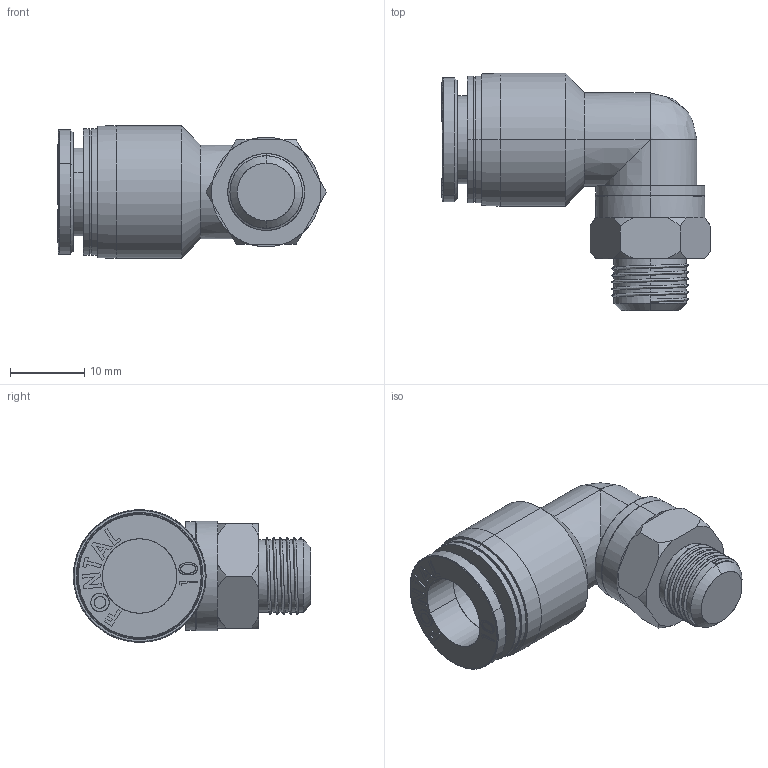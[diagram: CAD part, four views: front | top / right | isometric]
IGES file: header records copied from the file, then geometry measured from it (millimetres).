
Start section: SolidWorks IGES file using analytic representation for surfaces
Global section: file name: D:\Custom\3D繪製\ADDITIONAL\FPL\FPL10-01.IGS,1; native system: 5HSolidWorks 2014; preprocessor: SolidWorks 2014; author: Chieh_Lu; date: 160115.050316; units: millimetre
Bounding box: 36.09 x 31.9 x 17.85 mm (x, y, z)
Surface area: 4290.3 mm2 (no closed solid volume)
Topology: 0 solids, 0 shells, 175 faces, 2154 edges, 2153 vertices
Faces by surface type: bspline 114, revolution 61
